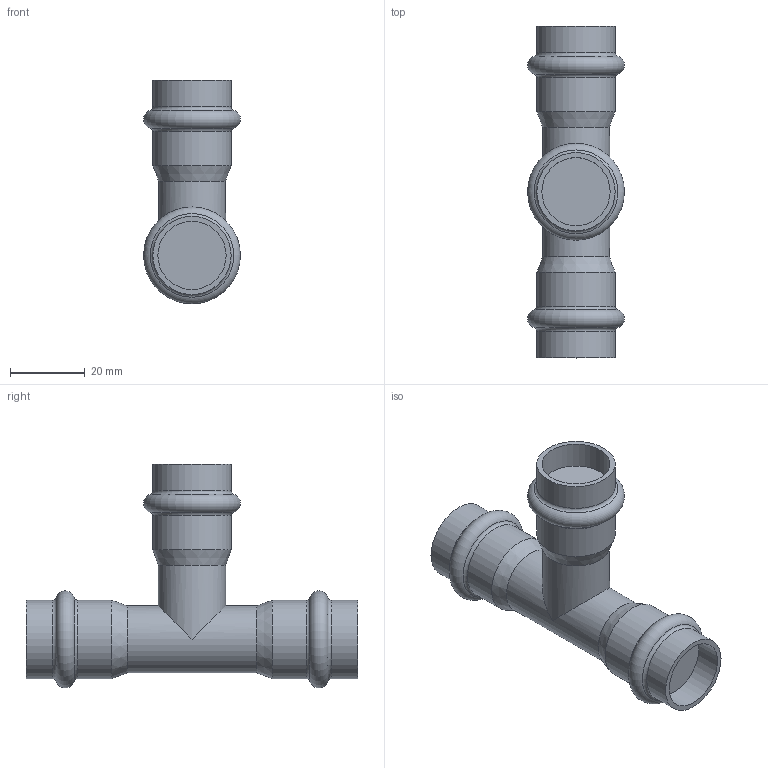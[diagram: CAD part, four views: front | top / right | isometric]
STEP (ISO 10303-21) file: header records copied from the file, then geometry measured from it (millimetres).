
FILE_DESCRIPTION(('STEP AP203'), '1');
FILE_NAME('VTi.931.I.181818', '', ('UNSPECIFIED'), ('UNSPECIFIED'), 'C3D Converter', 'C3D Toolkit', '');
FILE_SCHEMA(('CONFIG_CONTROL_DESIGN'));
Length unit declared in the file: millimetre
Bounding box: 25.98 x 89 x 59.99 mm (x, y, z)
Volume: 36111.3 mm3; surface area: 10756.4 mm2
Topology: 1 solids, 1 shells, 29 faces, 55 edges, 31 vertices
Faces by surface type: cylinder 11, torus 9, plane 6, cone 3
Full cylindrical faces by diameter (mm): 18 x2, 18.3 x3, 21 x6
Entity records: 640 total; most frequent: DIRECTION 114, CARTESIAN_POINT 104, ORIENTED_EDGE 62, AXIS2_PLACEMENT_3D 57, EDGE_LOOP 56, FACE_OUTER_BOUND 45, EDGE_CURVE 31, VERTEX_POINT 31
